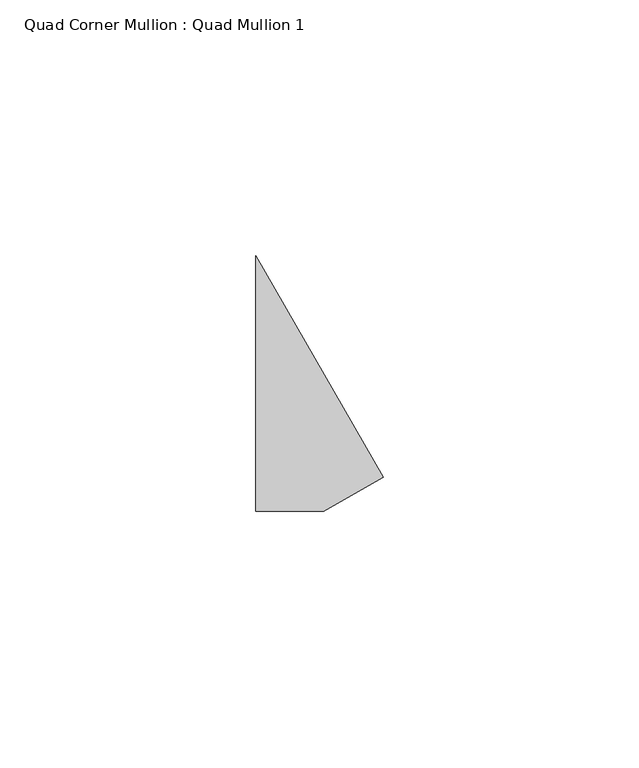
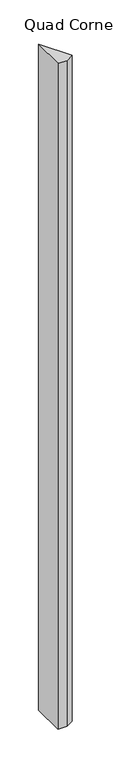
"""IFC4 building model written with IfcOpenShell, lengths in millimetres: member geometry, Quad Corner Mullion : Quad Mullion 1."""

from ifc_helpers import new_model, si_unit, frame, origin, place, context, project, spatial, polyline, outline, extrude, source, transform, mapped, element, save


def quad_corner_mullion_quad_mullion_1_46309e18(model_context):
    return source(origin(), model_context, "Body", "SweptSolid", [
        extrude(outline(polyline([(18.2517715, -18.3425598), (6.6765759, -25.0), (-6.6765759, -25.0), (-6.6765759, 25.0), (18.2517715, -18.3425598)])), frame((0.0, 0.0, -1050.0), z_axis=(0.0, 0.0, 1.0), x_axis=(1.0, 0.0, 0.0)), (0.0, 0.0, 1.0), 1050.0),
    ])


if __name__ == "__main__":
    model = new_model("IFC4")
    model_context = context("Model", 3, world=origin())
    ifc_project = project(units=[si_unit("LENGTHUNIT", "METRE", prefix="MILLI")], contexts=[model_context])
    site = spatial("IfcSite", under=ifc_project)
    building = spatial("IfcBuilding", under=site)
    placement = place(None, origin())
    quad_corner_mullion_quad_mullion_1_shape = quad_corner_mullion_quad_mullion_1_46309e18(model_context)
    element("IfcMember", 1, ObjectType="Quad Corner Mullion : Quad Mullion 1", at=placement, inside=building, context=model_context, shape_type="MappedRepresentation", body=[
        mapped(quad_corner_mullion_quad_mullion_1_shape, transform((0.0, 0.0, 0.0), x_axis=(1.0, 0.0, 0.0), y_axis=(0.0, 1.0, 0.0), z_axis=(0.0, 0.0, 1.0))),
    ])
    save(model, "model.ifc")
